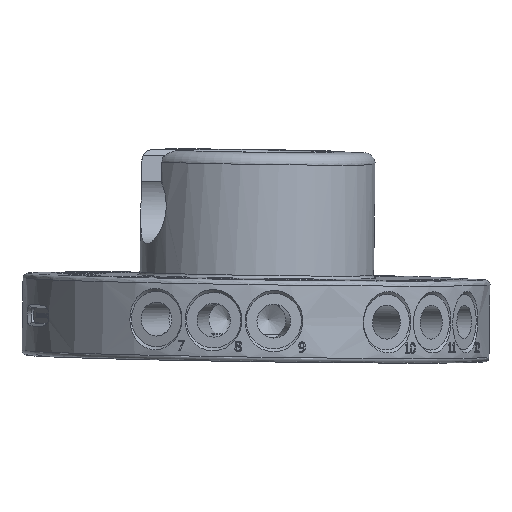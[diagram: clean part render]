
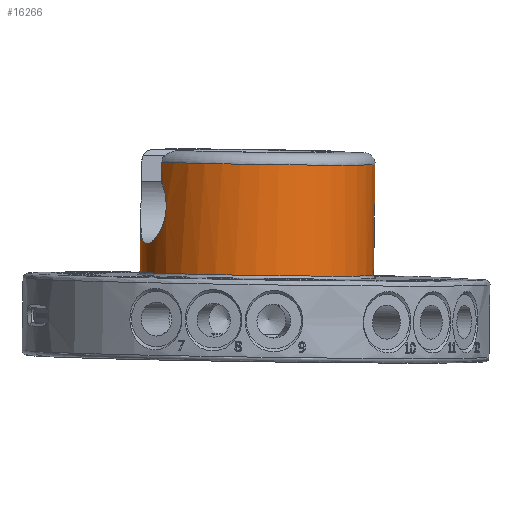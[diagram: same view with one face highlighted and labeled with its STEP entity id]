
A CAD part, left-side view. The second image highlights one B-rep face of the part: STEP entity #16266.
In plain terms, the highlighted cylindrical face has radius 40 mm (diameter 80 mm), a full revolution.
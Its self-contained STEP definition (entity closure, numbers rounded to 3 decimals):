
#1351=LINE('',#25658,#2347);
#1352=LINE('',#25662,#2348);
#1353=LINE('',#25692,#2349);
#1354=LINE('',#25695,#2350);
#1355=LINE('',#25699,#2351);
#2347=VECTOR('',#19270,10.);
#2348=VECTOR('',#19273,10.);
#2349=VECTOR('',#19274,10.);
#2350=VECTOR('',#19277,40.);
#2351=VECTOR('',#19280,10.);
#3336=FACE_OUTER_BOUND('',#4271,.T.);
#4271=EDGE_LOOP('',(#12050,#12051,#12052,#12053,#12054,#12055,#12056,#12057,
#12058,#12059,#12060,#12061));
#5015=CIRCLE('',#17206,40.);
#5037=CIRCLE('',#17230,40.);
#5038=CIRCLE('',#17231,40.);
#5039=CIRCLE('',#17232,40.);
#5640=B_SPLINE_CURVE_WITH_KNOTS('',3,(#25664,#25665,#25666,#25667,#25668,
#25669,#25670,#25671,#25672,#25673,#25674,#25675,#25676,#25677,#25678,#25679,
#25680,#25681,#25682,#25683,#25684,#25685,#25686,#25687,#25688,#25689,#25690),
 .UNSPECIFIED.,.F.,.F.,(4,2,2,2,2,2,2,2,2,2,3,2,4),(-4.854,-4.442,
-3.949,-3.455,-2.961,-2.468,
-1.974,-1.481,-0.987,-0.494,
0.,0.494,0.906),.UNSPECIFIED.);
#5641=B_SPLINE_CURVE_WITH_KNOTS('',3,(#25700,#25701,#25702,#25703,#25704,
#25705,#25706,#25707,#25708,#25709,#25710,#25711,#25712,#25713,#25714,#25715,
#25716,#25717,#25718,#25719,#25720,#25721,#25722,#25723,#25724,#25725,#25726),
 .UNSPECIFIED.,.F.,.F.,(4,2,3,2,2,2,2,2,2,2,2,2,4),(-0.829,
-0.494,0.,0.494,0.987,1.481,
1.974,2.468,2.961,3.455,3.949,
4.442,4.777),.UNSPECIFIED.);
#6899=VERTEX_POINT('',#25607);
#6922=VERTEX_POINT('',#25656);
#6923=VERTEX_POINT('',#25657);
#6924=VERTEX_POINT('',#25659);
#6925=VERTEX_POINT('',#25661);
#6926=VERTEX_POINT('',#25663);
#6927=VERTEX_POINT('',#25691);
#6928=VERTEX_POINT('',#25693);
#6929=VERTEX_POINT('',#25696);
#6930=VERTEX_POINT('',#25698);
#8808=EDGE_CURVE('',#6899,#6899,#5015,.T.);
#8831=EDGE_CURVE('',#6922,#6923,#1351,.T.);
#8832=EDGE_CURVE('',#6924,#6923,#5037,.T.);
#8833=EDGE_CURVE('',#6924,#6925,#1352,.T.);
#8834=EDGE_CURVE('',#6925,#6926,#5640,.T.);
#8835=EDGE_CURVE('',#6926,#6927,#1353,.T.);
#8836=EDGE_CURVE('',#6928,#6927,#5038,.T.);
#8837=EDGE_CURVE('',#6928,#6899,#1354,.T.);
#8838=EDGE_CURVE('',#6929,#6928,#5039,.T.);
#8839=EDGE_CURVE('',#6929,#6930,#1355,.T.);
#8840=EDGE_CURVE('',#6930,#6922,#5641,.T.);
#12050=ORIENTED_EDGE('',*,*,#8831,.T.);
#12051=ORIENTED_EDGE('',*,*,#8832,.F.);
#12052=ORIENTED_EDGE('',*,*,#8833,.T.);
#12053=ORIENTED_EDGE('',*,*,#8834,.T.);
#12054=ORIENTED_EDGE('',*,*,#8835,.T.);
#12055=ORIENTED_EDGE('',*,*,#8836,.F.);
#12056=ORIENTED_EDGE('',*,*,#8837,.T.);
#12057=ORIENTED_EDGE('',*,*,#8808,.F.);
#12058=ORIENTED_EDGE('',*,*,#8837,.F.);
#12059=ORIENTED_EDGE('',*,*,#8838,.F.);
#12060=ORIENTED_EDGE('',*,*,#8839,.T.);
#12061=ORIENTED_EDGE('',*,*,#8840,.T.);
#14883=CYLINDRICAL_SURFACE('',#17229,40.);
#16266=ADVANCED_FACE('',(#3336),#14883,.T.);
#17206=AXIS2_PLACEMENT_3D('',#25609,#19221,#19222);
#17229=AXIS2_PLACEMENT_3D('',#25655,#19268,#19269);
#17230=AXIS2_PLACEMENT_3D('',#25660,#19271,#19272);
#17231=AXIS2_PLACEMENT_3D('',#25694,#19275,#19276);
#17232=AXIS2_PLACEMENT_3D('',#25697,#19278,#19279);
#19221=DIRECTION('center_axis',(0.015,0.015,-1.));
#19222=DIRECTION('ref_axis',(-0.943,-0.332,-0.019));
#19268=DIRECTION('center_axis',(-0.015,-0.015,
1.));
#19269=DIRECTION('ref_axis',(0.943,0.332,0.019));
#19270=DIRECTION('',(-0.015,-0.015,1.));
#19271=DIRECTION('center_axis',(-0.015,-0.015,
1.));
#19272=DIRECTION('ref_axis',(0.943,0.332,0.019));
#19273=DIRECTION('',(0.015,0.015,-1.));
#19274=DIRECTION('',(-0.015,-0.015,1.));
#19275=DIRECTION('center_axis',(-0.015,-0.015,
1.));
#19276=DIRECTION('ref_axis',(0.943,0.332,0.019));
#19277=DIRECTION('',(0.015,0.015,-1.));
#19278=DIRECTION('center_axis',(-0.015,-0.015,
1.));
#19279=DIRECTION('ref_axis',(0.943,0.332,0.019));
#19280=DIRECTION('',(0.015,0.015,-1.));
#25607=CARTESIAN_POINT('',(-52.741,19.445,-37.408));
#25609=CARTESIAN_POINT('Origin',(-15.017,32.724,-36.662));
#25655=CARTESIAN_POINT('Origin',(-15.178,32.562,-25.597));
#25656=CARTESIAN_POINT('',(-18.646,72.141,-5.136));
#25657=CARTESIAN_POINT('',(-18.749,72.039,1.867));
#25658=CARTESIAN_POINT('',(-18.355,72.432,-25.061));
#25659=CARTESIAN_POINT('',(6.509,-1.184,1.165));
#25660=CARTESIAN_POINT('Origin',(-15.572,32.169,1.33));
#25661=CARTESIAN_POINT('',(6.603,-1.09,-5.235));
#25662=CARTESIAN_POINT('',(6.903,-0.79,-25.762));
#25663=CARTESIAN_POINT('',(-11.788,-7.564,-5.598));
#25664=CARTESIAN_POINT('Ctrl Pts',(6.603,-1.09,-5.235));
#25665=CARTESIAN_POINT('Ctrl Pts',(7.404,-0.555,
-6.252));
#25666=CARTESIAN_POINT('Ctrl Pts',(8.084,-0.057,
-7.471));
#25667=CARTESIAN_POINT('Ctrl Pts',(9.15,0.753,-10.378));
#25668=CARTESIAN_POINT('Ctrl Pts',(9.449,1.,-12.117));
#25669=CARTESIAN_POINT('Ctrl Pts',(9.497,1.048,-15.408));
#25670=CARTESIAN_POINT('Ctrl Pts',(9.25,0.852,-17.161));
#25671=CARTESIAN_POINT('Ctrl Pts',(8.181,0.063,
-20.388));
#25672=CARTESIAN_POINT('Ctrl Pts',(7.358,-0.524,
-21.862));
#25673=CARTESIAN_POINT('Ctrl Pts',(5.407,-1.763,-24.204));
#25674=CARTESIAN_POINT('Ctrl Pts',(4.145,-2.501,-25.232));
#25675=CARTESIAN_POINT('Ctrl Pts',(1.281,-3.923,-26.626));
#25676=CARTESIAN_POINT('Ctrl Pts',(-0.325,-4.603,
-26.991));
#25677=CARTESIAN_POINT('Ctrl Pts',(-3.427,-5.695,
-27.052));
#25678=CARTESIAN_POINT('Ctrl Pts',(-5.116,-6.175,-26.752));
#25679=CARTESIAN_POINT('Ctrl Pts',(-8.287,-6.877,-25.478));
#25680=CARTESIAN_POINT('Ctrl Pts',(-9.768,-7.105,
-24.504));
#25681=CARTESIAN_POINT('Ctrl Pts',(-12.146,-7.389,
-22.248));
#25682=CARTESIAN_POINT('Ctrl Pts',(-13.206,-7.466,
-20.81));
#25683=CARTESIAN_POINT('Ctrl Pts',(-14.646,-7.559,
-17.633));
#25684=CARTESIAN_POINT('Ctrl Pts',(-15.024,-7.583,
-15.892));
#25685=CARTESIAN_POINT('Ctrl Pts',(-15.048,-7.607,
-14.247));
#25686=CARTESIAN_POINT('Ctrl Pts',(-15.072,-7.631,
-12.602));
#25687=CARTESIAN_POINT('Ctrl Pts',(-14.745,-7.658,
-10.851));
#25688=CARTESIAN_POINT('Ctrl Pts',(-13.51,-7.658,
-7.898));
#25689=CARTESIAN_POINT('Ctrl Pts',(-12.711,-7.635,
-6.65));
#25690=CARTESIAN_POINT('Ctrl Pts',(-11.788,-7.564,
-5.598));
#25691=CARTESIAN_POINT('',(-11.881,-7.657,0.802));
#25692=CARTESIAN_POINT('',(-11.488,-7.264,-26.126));
#25693=CARTESIAN_POINT('',(-53.296,18.89,0.584));
#25694=CARTESIAN_POINT('Origin',(-15.572,32.169,1.33));
#25695=CARTESIAN_POINT('',(-52.903,19.283,-26.343));
#25696=CARTESIAN_POINT('',(-38.082,65.233,1.484));
#25697=CARTESIAN_POINT('Origin',(-15.572,32.169,1.33));
#25698=CARTESIAN_POINT('',(-37.98,65.336,-5.518));
#25699=CARTESIAN_POINT('',(-37.688,65.627,-25.443));
#25700=CARTESIAN_POINT('Ctrl Pts',(-37.98,65.336,-5.518));
#25701=CARTESIAN_POINT('Ctrl Pts',(-38.567,64.94,-6.432));
#25702=CARTESIAN_POINT('Ctrl Pts',(-39.059,64.586,-7.465));
#25703=CARTESIAN_POINT('Ctrl Pts',(-39.955,63.924,-10.173));
#25704=CARTESIAN_POINT('Ctrl Pts',(-40.203,63.727,-11.926));
#25705=CARTESIAN_POINT('Ctrl Pts',(-40.179,63.751,-13.571));
#25706=CARTESIAN_POINT('Ctrl Pts',(-40.155,63.775,-15.217));
#25707=CARTESIAN_POINT('Ctrl Pts',(-39.856,64.023,-16.955));
#25708=CARTESIAN_POINT('Ctrl Pts',(-38.694,64.906,-20.125));
#25709=CARTESIAN_POINT('Ctrl Pts',(-37.828,65.534,-21.557));
#25710=CARTESIAN_POINT('Ctrl Pts',(-35.81,66.841,-23.804));
#25711=CARTESIAN_POINT('Ctrl Pts',(-34.519,67.608,-24.773));
#25712=CARTESIAN_POINT('Ctrl Pts',(-31.616,69.069,-26.04));
#25713=CARTESIAN_POINT('Ctrl Pts',(-30.001,69.759,-26.337));
#25714=CARTESIAN_POINT('Ctrl Pts',(-26.898,70.851,-26.276));
#25715=CARTESIAN_POINT('Ctrl Pts',(-25.219,71.321,-25.913));
#25716=CARTESIAN_POINT('Ctrl Pts',(-22.087,71.984,-24.527));
#25717=CARTESIAN_POINT('Ctrl Pts',(-20.636,72.183,-23.504));
#25718=CARTESIAN_POINT('Ctrl Pts',(-18.325,72.4,-21.172));
#25719=CARTESIAN_POINT('Ctrl Pts',(-17.307,72.434,-19.702));
#25720=CARTESIAN_POINT('Ctrl Pts',(-15.96,72.434,-16.483));
#25721=CARTESIAN_POINT('Ctrl Pts',(-15.634,72.406,-14.732));
#25722=CARTESIAN_POINT('Ctrl Pts',(-15.682,72.358,-11.441));
#25723=CARTESIAN_POINT('Ctrl Pts',(-16.06,72.335,-9.7));
#25724=CARTESIAN_POINT('Ctrl Pts',(-17.268,72.256,-7.034));
#25725=CARTESIAN_POINT('Ctrl Pts',(-17.909,72.212,-6.024));
#25726=CARTESIAN_POINT('Ctrl Pts',(-18.646,72.141,-5.136));
